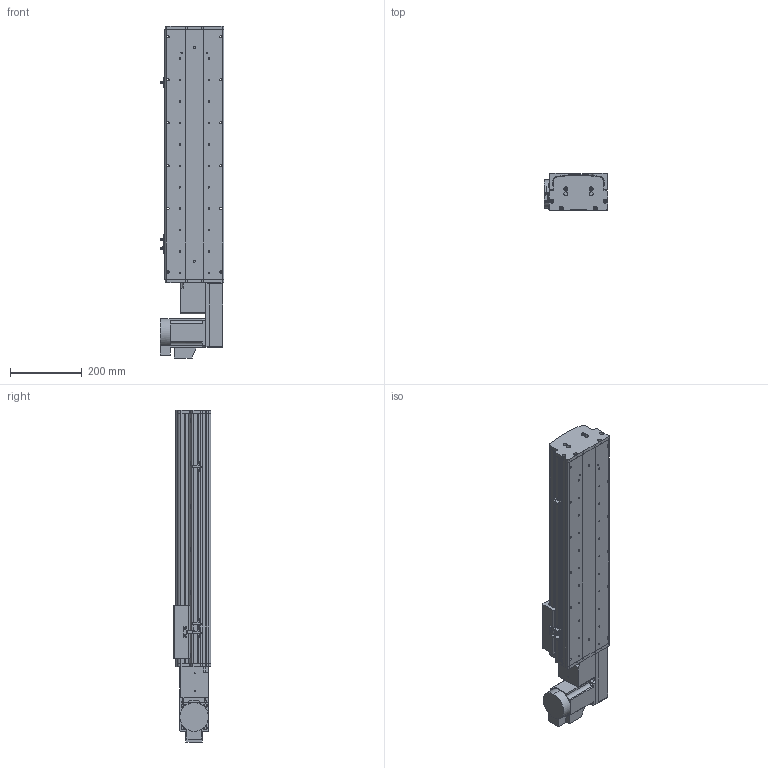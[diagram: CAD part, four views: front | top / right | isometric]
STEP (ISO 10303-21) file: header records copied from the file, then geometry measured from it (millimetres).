
FILE_DESCRIPTION (( 'STEP AP214' ), '1' );
FILE_NAME ('KSD165B-S450-MRB-CM .STEP', '2017-10-16T08:43:41', ( '微软用户' ), ( '微软中国' ), 'SwSTEP 2.0', 'SolidWorks 2014', '' );
FILE_SCHEMA (( 'AUTOMOTIVE_DESIGN' ));
Length unit declared in the file: millimetre
Products named in the file (17): KSD165模组-同步带-防撞垫2; KSD165模组同步带-防撞垫1; KSD165耀郪-ヶ傷啣1-肮祭湍; KSD165模组-后端板1-同步带; KSD165模组-同步带滑动座-最新版; KSD165B-S450-MRB-CM  ; HTPA26S5M250-A-H8 750W萇儂蚚; HTPA26S5M250-A-H8 400W萇儂蚚 ; 130宽模组马达安装板连板左右折同步带; 130宽模组保护罩上下左右折-同步带; KSD165模组-同步带防尘盖1-450行程-最新版; KSD165模组同步带底板-450行程-最新; 拸秶雄ん750W侜督萇儂; 165宽马达安装板同步带右; U倰嫖萇假蚾璃; U倰嫖萇EEㄜSX672; 覜茼え68遵圉猾敕
Assembly tree (20 placements, depth 2):
  KSD165B-S450-MRB-CM  
    KSD165模组-同步带滑动座-最新版
    KSD165模组-后端板1-同步带
    KSD165耀郪-ヶ傷啣1-肮祭湍
    KSD165模组同步带-防撞垫1
    KSD165模组-同步带-防撞垫2
    覜茼え68遵圉猾敕
    U倰嫖萇EEㄜSX672  x3
    U倰嫖萇假蚾璃  x3
    165宽马达安装板同步带右
    拸秶雄ん750W侜督萇儂
    KSD165模组同步带底板-450行程-最新
    KSD165模组-同步带防尘盖1-450行程-最新版
    130宽模组保护罩上下左右折-同步带
    130宽模组马达安装板连板左右折同步带
    HTPA26S5M250-A-H8 400W萇儂蚚 
    HTPA26S5M250-A-H8 750W萇儂蚚
Bounding box: 178.7 x 104 x 927.5 mm (x, y, z)
Volume: 5436804.1 mm3; surface area: 1255313.5 mm2
Topology: 21 solids, 21 shells, 1889 faces, 5322 edges, 3472 vertices
Faces by surface type: cylinder 1199, plane 578, cone 112
Entity records: 60684 total; most frequent: CARTESIAN_POINT 12424, DIRECTION 10030, ORIENTED_EDGE 9304, EDGE_CURVE 4652, AXIS2_PLACEMENT_3D 3924, VERTEX_POINT 3064, CIRCLE 2232, VECTOR 2182
